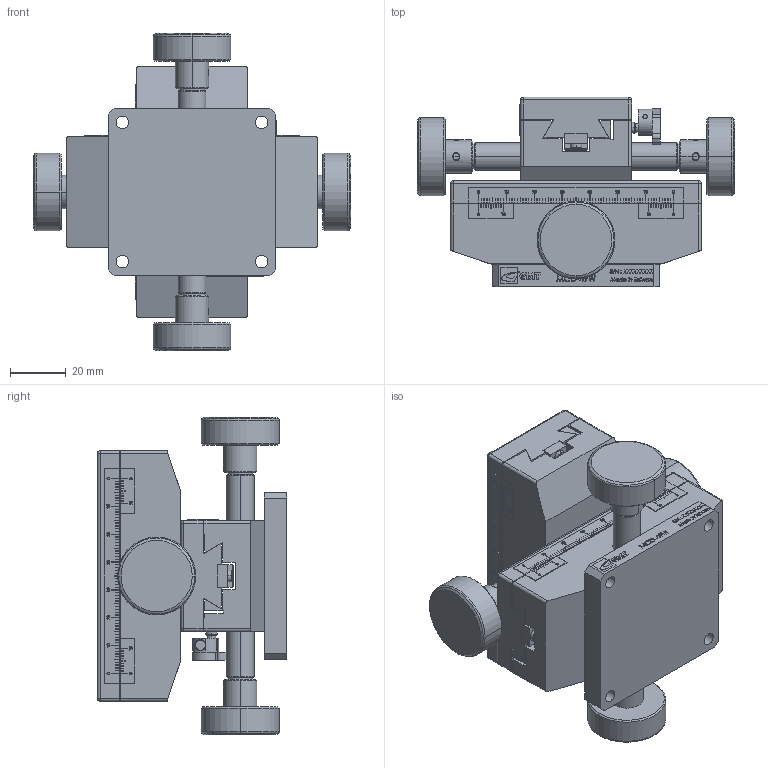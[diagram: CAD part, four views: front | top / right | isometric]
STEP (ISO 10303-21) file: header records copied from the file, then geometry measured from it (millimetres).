
FILE_DESCRIPTION (( 'STEP AP203' ), '1' );
FILE_NAME ('MCD-49(W)(«¬¿ý).STEP', '2013-09-30T07:17:08', ( '' ), ( '' ), 'SwSTEP 2.0', 'SolidWorks 2013', '' );
FILE_SCHEMA (( 'CONFIG_CONTROL_DESIGN' ));
Length unit declared in the file: millimetre
Products named in the file (5): Group1^MCD-49(W)(型錄); Group4^MCD-49(W)(型錄); Group3^MCD-49(W)(型錄); Group2^MCD-49(W)(型錄); MCD-49(W)(型錄)
Assembly tree (4 placements, depth 2):
  MCD-49(W)(型錄)
    Group1^MCD-49(W)(型錄)
    Group4^MCD-49(W)(型錄)
    Group3^MCD-49(W)(型錄)
    Group2^MCD-49(W)(型錄)
Bounding box: 114 x 68 x 114 mm (x, y, z)
Volume: 265785.8 mm3; surface area: 76187.2 mm2
Topology: 4 solids, 4 shells, 2419 faces, 6512 edges, 4239 vertices
Faces by surface type: plane 1620, bspline 405, cylinder 230, cone 124, torus 24, sphere 16
Entity records: 102524 total; most frequent: CARTESIAN_POINT 44034, ORIENTED_EDGE 12990, DIRECTION 10269, EDGE_CURVE 6495, LINE 4795, VECTOR 4795, VERTEX_POINT 4238, AXIS2_PLACEMENT_3D 2737
